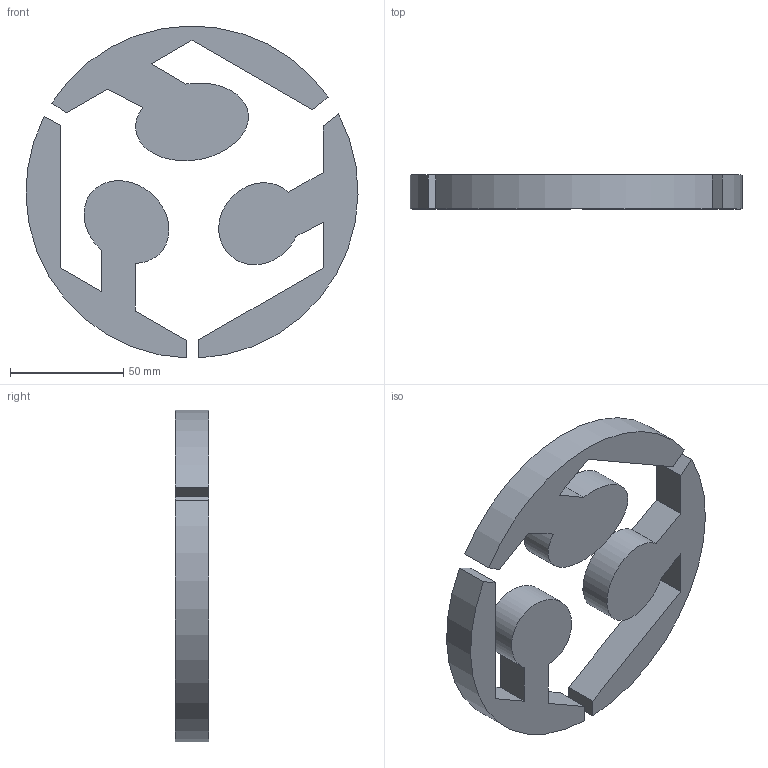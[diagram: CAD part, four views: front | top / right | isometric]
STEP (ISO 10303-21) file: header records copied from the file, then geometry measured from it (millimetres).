
FILE_DESCRIPTION( ( '' ), ' ' );
FILE_NAME( '/vol/tmp/translate-8430855276674358366/5ebca78e9522be13ece7f405.step', '2020-05-14T02:06:06', ( '' ), ( '' ), ' ', ' ', ' ' );
FILE_SCHEMA( ( 'AUTOMOTIVE_DESIGN { 1 0 10303 214 1 1 1 1 }' ) );
Length unit declared in the file: metre
Products named in the file (3): Part 1; Part 2; Part 3
Bounding box: 146.69 x 15 x 146.68 mm (x, y, z)
Volume: 139847.9 mm3; surface area: 36878.3 mm2
Topology: 3 solids, 3 shells, 33 faces, 81 edges, 54 vertices
Faces by surface type: plane 27, extrusion 3, cylinder 3
Entity records: 1276 total; most frequent: CARTESIAN_POINT 171, DIRECTION 168, ORIENTED_EDGE 162, EDGE_CURVE 81, VECTOR 72, LINE 69, VERTEX_POINT 54, AXIS2_PLACEMENT_3D 48
